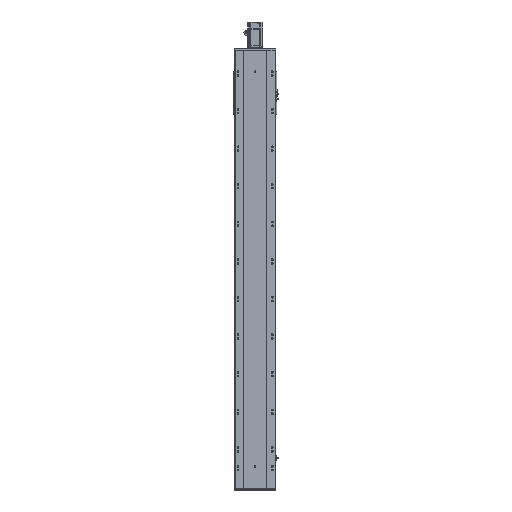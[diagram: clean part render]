
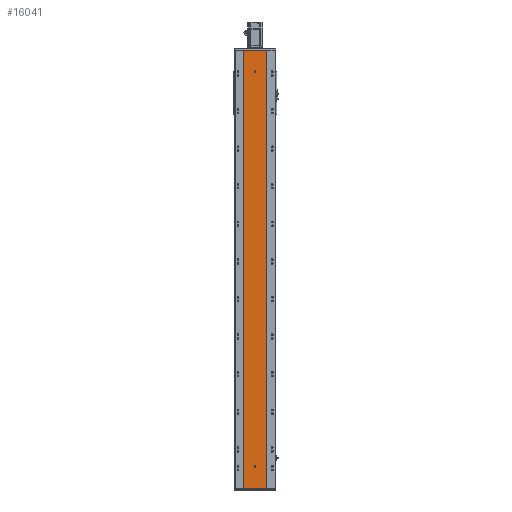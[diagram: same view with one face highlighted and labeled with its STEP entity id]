
A CAD part, front view. The second image highlights one B-rep face of the part: STEP entity #16041.
In plain terms, the highlighted planar face has unit normal (0, -1, 0).
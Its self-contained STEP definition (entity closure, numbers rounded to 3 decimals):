
#508 = ORIENTED_EDGE ( 'NONE', *, *, #22753, .F. ) ;
#2007 = ORIENTED_EDGE ( 'NONE', *, *, #20936, .F. ) ;
#2215 = CARTESIAN_POINT ( 'NONE',  ( -60., 0., 2332. ) ) ;
#2911 = CARTESIAN_POINT ( 'NONE',  ( 0., 0., 112.5 ) ) ;
#3892 = CARTESIAN_POINT ( 'NONE',  ( 4., 0., 116.5 ) ) ;
#3999 = VERTEX_POINT ( 'NONE', #69529 ) ;
#4149 = FACE_BOUND ( 'NONE', #33598, .T. ) ;
#5653 = DIRECTION ( 'NONE',  ( 0., 0., -1. ) ) ;
#7241 = DIRECTION ( 'NONE',  ( 0., -1., 0. ) ) ;
#7559 = AXIS2_PLACEMENT_3D ( 'NONE', #41783, #54188, #5653 ) ;
#7773 = VERTEX_POINT ( 'NONE', #49912 ) ;
#7897 = AXIS2_PLACEMENT_3D ( 'NONE', #69644, #65848, #53396 ) ;
#8623 = CARTESIAN_POINT ( 'NONE',  ( 60., 0., 2332. ) ) ;
#8870 = CIRCLE ( 'NONE', #7559, 4. ) ;
#8949 = FACE_BOUND ( 'NONE', #67512, .T. ) ;
#10764 = VERTEX_POINT ( 'NONE', #19253 ) ;
#12162 = DIRECTION ( 'NONE',  ( 0., 0., -1. ) ) ;
#12164 = LINE ( 'NONE', #45566, #47893 ) ;
#12608 = DIRECTION ( 'NONE',  ( 0., 0., -1. ) ) ;
#12650 = LINE ( 'NONE', #2215, #69733 ) ;
#13244 = VECTOR ( 'NONE', #37856, 1000. ) ;
#14248 = LINE ( 'NONE', #31125, #13244 ) ;
#14705 = VERTEX_POINT ( 'NONE', #71091 ) ;
#15877 = AXIS2_PLACEMENT_3D ( 'NONE', #79546, #17743, #80089 ) ;
#16041 = ADVANCED_FACE ( 'NONE', ( #4149, #8949, #72668 ), #79018, .F. ) ;
#17380 = VERTEX_POINT ( 'NONE', #76568 ) ;
#17743 = DIRECTION ( 'NONE',  ( 0., 1., 0. ) ) ;
#19253 = CARTESIAN_POINT ( 'NONE',  ( 0., 0., 2214. ) ) ;
#20901 = ORIENTED_EDGE ( 'NONE', *, *, #40165, .F. ) ;
#20936 = EDGE_CURVE ( 'NONE', #3999, #7773, #64753, .T. ) ;
#21671 = VERTEX_POINT ( 'NONE', #60692 ) ;
#22351 = ORIENTED_EDGE ( 'NONE', *, *, #41564, .F. ) ;
#22392 = AXIS2_PLACEMENT_3D ( 'NONE', #61200, #74409, #12608 ) ;
#22753 = EDGE_CURVE ( 'NONE', #48691, #17380, #43293, .T. ) ;
#23335 = ORIENTED_EDGE ( 'NONE', *, *, #59944, .F. ) ;
#25823 = LINE ( 'NONE', #71794, #56760 ) ;
#26267 = VERTEX_POINT ( 'NONE', #57951 ) ;
#27664 = DIRECTION ( 'NONE',  ( 0., 0., -1. ) ) ;
#28752 = VERTEX_POINT ( 'NONE', #8623 ) ;
#29594 = ORIENTED_EDGE ( 'NONE', *, *, #48029, .T. ) ;
#29769 = EDGE_CURVE ( 'NONE', #28752, #54967, #14248, .T. ) ;
#31125 = CARTESIAN_POINT ( 'NONE',  ( 60., 0., 2332. ) ) ;
#32183 = LINE ( 'NONE', #44675, #66943 ) ;
#32372 = DIRECTION ( 'NONE',  ( 1., 0., 0. ) ) ;
#33598 = EDGE_LOOP ( 'NONE', ( #55564, #42685 ) ) ;
#37856 = DIRECTION ( 'NONE',  ( 0., 0., -1. ) ) ;
#39873 = AXIS2_PLACEMENT_3D ( 'NONE', #44163, #7241, #50350 ) ;
#40165 = EDGE_CURVE ( 'NONE', #17380, #3999, #68506, .T. ) ;
#41564 = EDGE_CURVE ( 'NONE', #7773, #21671, #25823, .T. ) ;
#41783 = CARTESIAN_POINT ( 'NONE',  ( 0., 0., 2218. ) ) ;
#42685 = ORIENTED_EDGE ( 'NONE', *, *, #51700, .F. ) ;
#43293 = CIRCLE ( 'NONE', #53926, 4. ) ;
#44163 = CARTESIAN_POINT ( 'NONE',  ( 0., 0., 119.5 ) ) ;
#44342 = CIRCLE ( 'NONE', #7897, 4. ) ;
#44675 = CARTESIAN_POINT ( 'NONE',  ( -60., 0., 2332. ) ) ;
#45566 = CARTESIAN_POINT ( 'NONE',  ( -60., 0., 0. ) ) ;
#46826 = VERTEX_POINT ( 'NONE', #63827 ) ;
#47893 = VECTOR ( 'NONE', #32372, 1000. ) ;
#48020 = CARTESIAN_POINT ( 'NONE',  ( 60., 0., 0. ) ) ;
#48029 = EDGE_CURVE ( 'NONE', #26267, #46826, #32183, .T. ) ;
#48114 = ORIENTED_EDGE ( 'NONE', *, *, #65315, .T. ) ;
#48691 = VERTEX_POINT ( 'NONE', #2911 ) ;
#49108 = DIRECTION ( 'NONE',  ( 0., -1., 0. ) ) ;
#49294 = EDGE_LOOP ( 'NONE', ( #48114, #60842, #23335, #29594 ) ) ;
#49912 = CARTESIAN_POINT ( 'NONE',  ( -4., 0., 119.5 ) ) ;
#50350 = DIRECTION ( 'NONE',  ( 0., 0., -1. ) ) ;
#51700 = EDGE_CURVE ( 'NONE', #14705, #10764, #8870, .T. ) ;
#53396 = DIRECTION ( 'NONE',  ( 0., 0., -1. ) ) ;
#53926 = AXIS2_PLACEMENT_3D ( 'NONE', #60778, #49108, #12162 ) ;
#54188 = DIRECTION ( 'NONE',  ( 0., -1., 0. ) ) ;
#54967 = VERTEX_POINT ( 'NONE', #48020 ) ;
#55415 = ORIENTED_EDGE ( 'NONE', *, *, #69499, .F. ) ;
#55564 = ORIENTED_EDGE ( 'NONE', *, *, #77088, .F. ) ;
#56760 = VECTOR ( 'NONE', #71269, 1000. ) ;
#57951 = CARTESIAN_POINT ( 'NONE',  ( -60., 0., 2332. ) ) ;
#59044 = CIRCLE ( 'NONE', #22392, 4. ) ;
#59944 = EDGE_CURVE ( 'NONE', #26267, #28752, #12650, .T. ) ;
#60692 = CARTESIAN_POINT ( 'NONE',  ( -4., 0., 116.5 ) ) ;
#60778 = CARTESIAN_POINT ( 'NONE',  ( 0., 0., 116.5 ) ) ;
#60842 = ORIENTED_EDGE ( 'NONE', *, *, #29769, .F. ) ;
#61200 = CARTESIAN_POINT ( 'NONE',  ( 0., 0., 116.5 ) ) ;
#63827 = CARTESIAN_POINT ( 'NONE',  ( -60., 0., 0. ) ) ;
#64500 = DIRECTION ( 'NONE',  ( 1., 0., 0. ) ) ;
#64753 = CIRCLE ( 'NONE', #39873, 4. ) ;
#65315 = EDGE_CURVE ( 'NONE', #46826, #54967, #12164, .T. ) ;
#65848 = DIRECTION ( 'NONE',  ( 0., -1., 0. ) ) ;
#66943 = VECTOR ( 'NONE', #27664, 1000. ) ;
#67512 = EDGE_LOOP ( 'NONE', ( #20901, #508, #55415, #22351, #2007 ) ) ;
#68506 = LINE ( 'NONE', #3892, #73312 ) ;
#69499 = EDGE_CURVE ( 'NONE', #21671, #48691, #59044, .T. ) ;
#69529 = CARTESIAN_POINT ( 'NONE',  ( 4., 0., 119.5 ) ) ;
#69644 = CARTESIAN_POINT ( 'NONE',  ( 0., 0., 2218. ) ) ;
#69733 = VECTOR ( 'NONE', #64500, 1000. ) ;
#71091 = CARTESIAN_POINT ( 'NONE',  ( 0., 0., 2222. ) ) ;
#71269 = DIRECTION ( 'NONE',  ( 0., 0., -1. ) ) ;
#71794 = CARTESIAN_POINT ( 'NONE',  ( -4., 0., 116.5 ) ) ;
#72668 = FACE_OUTER_BOUND ( 'NONE', #49294, .T. ) ;
#73312 = VECTOR ( 'NONE', #78367, 1000. ) ;
#74409 = DIRECTION ( 'NONE',  ( 0., -1., 0. ) ) ;
#76568 = CARTESIAN_POINT ( 'NONE',  ( 4., 0., 116.5 ) ) ;
#77088 = EDGE_CURVE ( 'NONE', #10764, #14705, #44342, .T. ) ;
#78367 = DIRECTION ( 'NONE',  ( 0., 0., 1. ) ) ;
#79018 = PLANE ( 'NONE',  #15877 ) ;
#79546 = CARTESIAN_POINT ( 'NONE',  ( -60., 0., 2332. ) ) ;
#80089 = DIRECTION ( 'NONE',  ( 0., 0., 1. ) ) ;
